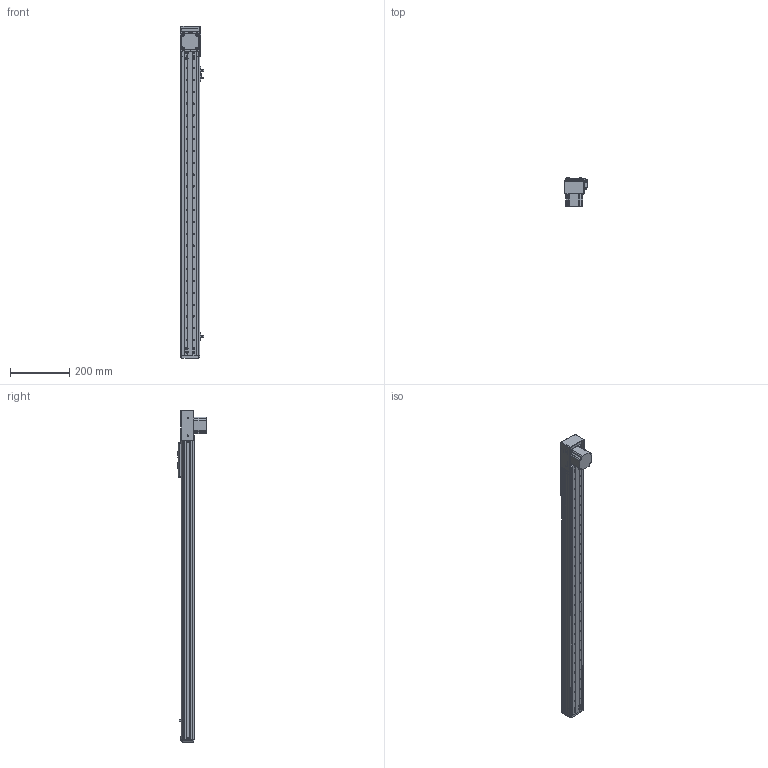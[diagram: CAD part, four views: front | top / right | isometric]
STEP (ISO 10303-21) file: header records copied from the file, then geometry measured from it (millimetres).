
FILE_DESCRIPTION (( 'STEP AP203' ), '1' );
FILE_NAME ('RY60F-T-350-DK.SLDASM_850.step', '2021-03-02T00:56:07', ( '盈信电脑' ), ( '东莞市道滘镇水果街19号' ), 'SwSTEP 2.0', 'SolidWorks 2012', '' );
FILE_SCHEMA (( 'CONFIG_CONTROL_DESIGN' ));
Length unit declared in the file: millimetre
Products named in the file (19): RY60F-T-350-DK.SLDASM_850; RY60F-T-狟殏欶; RY60F-肮祭湍揤輸; 57祭輛萇儂; RY60F-肮祭湍揤輸2; RY60F-T-下折同步带拉紧板; RY50F-350-MR15W絳寢-DK_850; 滅袉蝶18-24; RY60F-T-57萇儂奻殏假蚾啣; RY60F-T-下折57电机端同步轮座; RY60F-350肮祭湍俋褲-DK_850; RY60F-350-肮祭湍滅鳥詩え-DK_850; 覜茼ん672; RY50-60詩湍揤啣; RY60F-祥凄詩滅鳥裔; RY60F-滅鳥詩え盓殤; RY60F-嫖萇羲壽結え; RY60F-肮祭湍臏賑輸; RY60F-浮动端同步轮支撑座
Assembly tree (23 placements, depth 2):
  RY60F-T-350-DK.SLDASM_850
    RY60F-肮祭湍臏賑輸
    RY60F-浮动端同步轮支撑座
    RY60F-滅鳥詩え盓殤
    RY60F-嫖萇羲壽結え
    RY50-60詩湍揤啣  x2
    RY60F-祥凄詩滅鳥裔
    RY60F-T-下折57电机端同步轮座
    RY60F-350肮祭湍俋褲-DK_850  x2
    覜茼ん672  x3
    RY60F-350-肮祭湍滅鳥詩え-DK_850
    RY50F-350-MR15W絳寢-DK_850
    滅袉蝶18-24  x2
    RY60F-T-57萇儂奻殏假蚾啣
    RY60F-T-下折同步带拉紧板
    RY60F-肮祭湍揤輸
    RY60F-肮祭湍揤輸2
    57祭輛萇儂
    RY60F-T-狟殏欶
Bounding box: 80.76 x 96.5 x 1123 mm (x, y, z)
Volume: 1042420.9 mm3; surface area: 697581.3 mm2
Topology: 23 solids, 23 shells, 1202 faces, 3302 edges, 2124 vertices
Faces by surface type: cylinder 575, plane 546, cone 71, bspline 10
Entity records: 37157 total; most frequent: CARTESIAN_POINT 6721, DIRECTION 6028, ORIENTED_EDGE 5780, EDGE_CURVE 2890, AXIS2_PLACEMENT_3D 2139, VERTEX_POINT 1892, VECTOR 1750, LINE 1750
